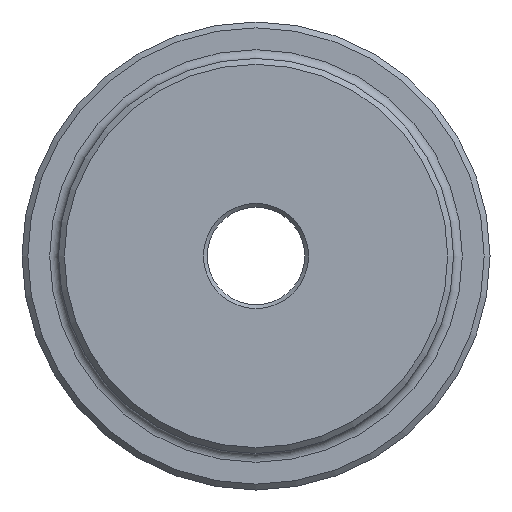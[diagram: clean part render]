
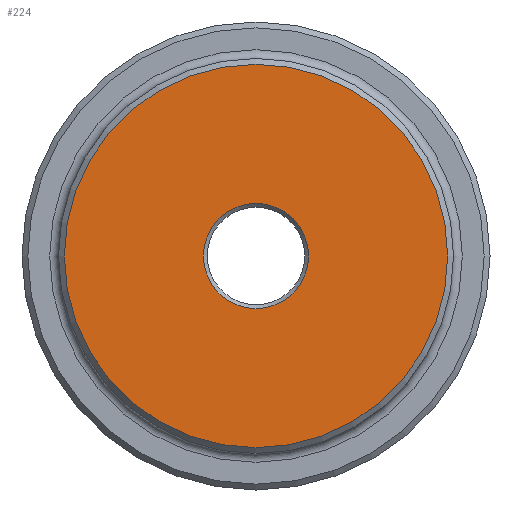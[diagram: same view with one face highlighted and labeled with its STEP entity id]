
A CAD part, left-side view. The second image highlights one B-rep face of the part: STEP entity #224.
In plain terms, the highlighted planar face has unit normal (-1, 0, 0).
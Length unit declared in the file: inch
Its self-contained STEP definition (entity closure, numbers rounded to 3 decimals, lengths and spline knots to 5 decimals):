
#24 = CARTESIAN_POINT ( 'NONE',  ( 0., 0., 0. ) ) ;
#224 = ADVANCED_FACE ( 'NONE', ( #2212, #1884 ), #1800, .F. ) ;
#352 = DIRECTION ( 'NONE',  ( 1., 0., 0. ) ) ;
#373 = EDGE_LOOP ( 'NONE', ( #689 ) ) ;
#410 = AXIS2_PLACEMENT_3D ( 'NONE', #687, #998, #2327 ) ;
#608 = CARTESIAN_POINT ( 'NONE',  ( 0., 0., -1.97 ) ) ;
#687 = CARTESIAN_POINT ( 'NONE',  ( 0., 0., 0. ) ) ;
#689 = ORIENTED_EDGE ( 'NONE', *, *, #1726, .T. ) ;
#721 = VERTEX_POINT ( 'NONE', #1108 ) ;
#728 = AXIS2_PLACEMENT_3D ( 'NONE', #24, #352, #1823 ) ;
#998 = DIRECTION ( 'NONE',  ( -1., 0., 0. ) ) ;
#1108 = CARTESIAN_POINT ( 'NONE',  ( 0., 0., -0.54015 ) ) ;
#1152 = DIRECTION ( 'NONE',  ( 1., 0., 0. ) ) ;
#1391 = ORIENTED_EDGE ( 'NONE', *, *, #2209, .T. ) ;
#1447 = AXIS2_PLACEMENT_3D ( 'NONE', #2292, #1152, #1752 ) ;
#1556 = CIRCLE ( 'NONE', #728, 0.54015 ) ;
#1713 = CIRCLE ( 'NONE', #410, 1.97 ) ;
#1726 = EDGE_CURVE ( 'NONE', #2279, #2279, #1713, .T. ) ;
#1752 = DIRECTION ( 'NONE',  ( 0., 0., -1. ) ) ;
#1800 = PLANE ( 'NONE',  #1447 ) ;
#1823 = DIRECTION ( 'NONE',  ( 0., 0., -1. ) ) ;
#1884 = FACE_OUTER_BOUND ( 'NONE', #373, .T. ) ;
#2086 = EDGE_LOOP ( 'NONE', ( #1391 ) ) ;
#2209 = EDGE_CURVE ( 'NONE', #721, #721, #1556, .T. ) ;
#2212 = FACE_BOUND ( 'NONE', #2086, .T. ) ;
#2279 = VERTEX_POINT ( 'NONE', #608 ) ;
#2292 = CARTESIAN_POINT ( 'NONE',  ( 0., 0., 0. ) ) ;
#2327 = DIRECTION ( 'NONE',  ( 0., 0., -1. ) ) ;
